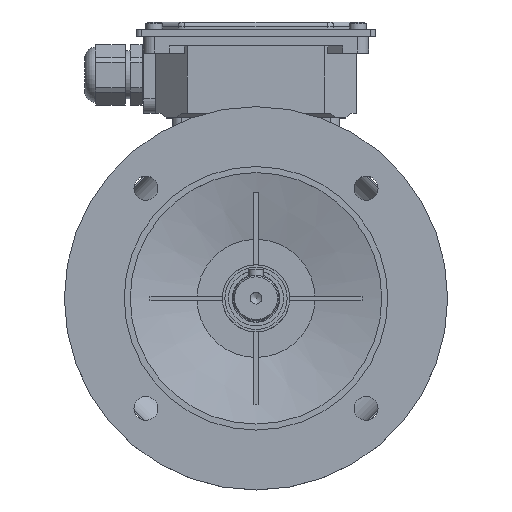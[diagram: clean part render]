
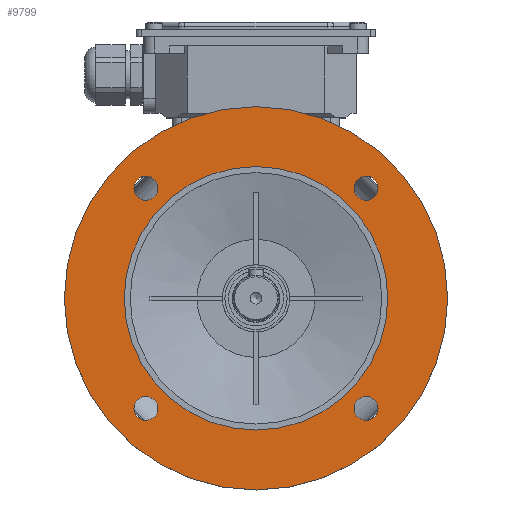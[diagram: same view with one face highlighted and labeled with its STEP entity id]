
A CAD part, top view. The second image highlights one B-rep face of the part: STEP entity #9799.
In plain terms, the highlighted planar face has unit normal (0, 0, 1).
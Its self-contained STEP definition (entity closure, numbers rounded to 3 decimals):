
#1932=FACE_BOUND('',#3264,.T.);
#1933=FACE_BOUND('',#3265,.T.);
#1934=FACE_BOUND('',#3266,.T.);
#1935=FACE_BOUND('',#3267,.T.);
#1936=FACE_BOUND('',#3268,.T.);
#2641=FACE_OUTER_BOUND('',#3263,.T.);
#3263=EDGE_LOOP('',(#8627));
#3264=EDGE_LOOP('',(#8628));
#3265=EDGE_LOOP('',(#8629));
#3266=EDGE_LOOP('',(#8630));
#3267=EDGE_LOOP('',(#8631));
#3268=EDGE_LOOP('',(#8632));
#3730=CIRCLE('',#10729,80.);
#3731=CIRCLE('',#10730,5.);
#3732=CIRCLE('',#10731,5.);
#3733=CIRCLE('',#10732,5.);
#3734=CIRCLE('',#10733,5.);
#3735=CIRCLE('',#10734,55.);
#4649=VERTEX_POINT('',#16682);
#4650=VERTEX_POINT('',#16684);
#4651=VERTEX_POINT('',#16686);
#4652=VERTEX_POINT('',#16688);
#4653=VERTEX_POINT('',#16690);
#4654=VERTEX_POINT('',#16692);
#6009=EDGE_CURVE('',#4649,#4649,#3730,.T.);
#6010=EDGE_CURVE('',#4650,#4650,#3731,.T.);
#6011=EDGE_CURVE('',#4651,#4651,#3732,.T.);
#6012=EDGE_CURVE('',#4652,#4652,#3733,.T.);
#6013=EDGE_CURVE('',#4653,#4653,#3734,.T.);
#6014=EDGE_CURVE('',#4654,#4654,#3735,.T.);
#8627=ORIENTED_EDGE('',*,*,#6009,.F.);
#8628=ORIENTED_EDGE('',*,*,#6010,.T.);
#8629=ORIENTED_EDGE('',*,*,#6011,.T.);
#8630=ORIENTED_EDGE('',*,*,#6012,.T.);
#8631=ORIENTED_EDGE('',*,*,#6013,.T.);
#8632=ORIENTED_EDGE('',*,*,#6014,.F.);
#9265=PLANE('',#10728);
#9799=ADVANCED_FACE('',(#2641,#1932,#1933,#1934,#1935,#1936),#9265,.T.);
#10728=AXIS2_PLACEMENT_3D('',#16681,#13354,#13355);
#10729=AXIS2_PLACEMENT_3D('',#16683,#13356,#13357);
#10730=AXIS2_PLACEMENT_3D('',#16685,#13358,#13359);
#10731=AXIS2_PLACEMENT_3D('',#16687,#13360,#13361);
#10732=AXIS2_PLACEMENT_3D('',#16689,#13362,#13363);
#10733=AXIS2_PLACEMENT_3D('',#16691,#13364,#13365);
#10734=AXIS2_PLACEMENT_3D('',#16693,#13366,#13367);
#13354=DIRECTION('center_axis',(0.,0.,1.));
#13355=DIRECTION('ref_axis',(1.,0.,0.));
#13356=DIRECTION('center_axis',(0.,0.,-1.));
#13357=DIRECTION('ref_axis',(0.,1.,0.));
#13358=DIRECTION('center_axis',(0.,0.,-1.));
#13359=DIRECTION('ref_axis',(-1.,0.,0.));
#13360=DIRECTION('center_axis',(0.,0.,-1.));
#13361=DIRECTION('ref_axis',(0.,-1.,0.));
#13362=DIRECTION('center_axis',(0.,0.,-1.));
#13363=DIRECTION('ref_axis',(1.,0.,0.));
#13364=DIRECTION('center_axis',(0.,0.,-1.));
#13365=DIRECTION('ref_axis',(0.,1.,0.));
#13366=DIRECTION('center_axis',(0.,0.,1.));
#13367=DIRECTION('ref_axis',(-1.,0.,0.));
#16681=CARTESIAN_POINT('Origin',(0.,0.,
86.5));
#16682=CARTESIAN_POINT('',(0.,-80.,86.5));
#16683=CARTESIAN_POINT('Origin',(0.,0.,86.5));
#16684=CARTESIAN_POINT('',(-40.962,45.962,86.5));
#16685=CARTESIAN_POINT('Origin',(-45.962,45.962,86.5));
#16686=CARTESIAN_POINT('',(-45.962,-40.962,86.5));
#16687=CARTESIAN_POINT('Origin',(-45.962,-45.962,86.5));
#16688=CARTESIAN_POINT('',(40.962,-45.962,86.5));
#16689=CARTESIAN_POINT('Origin',(45.962,-45.962,86.5));
#16690=CARTESIAN_POINT('',(45.962,40.962,86.5));
#16691=CARTESIAN_POINT('Origin',(45.962,45.962,86.5));
#16692=CARTESIAN_POINT('',(55.,0.,86.5));
#16693=CARTESIAN_POINT('Origin',(0.,0.,86.5));
